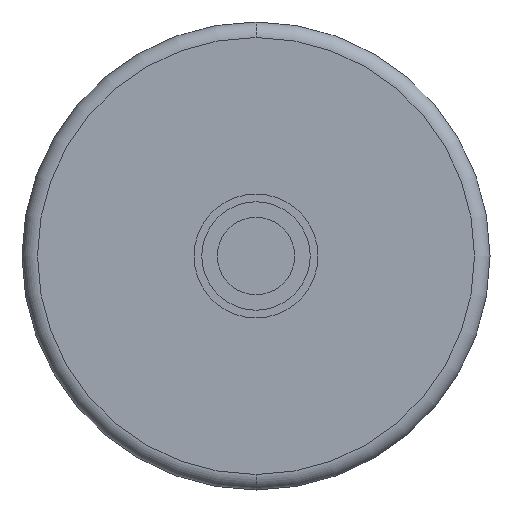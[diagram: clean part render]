
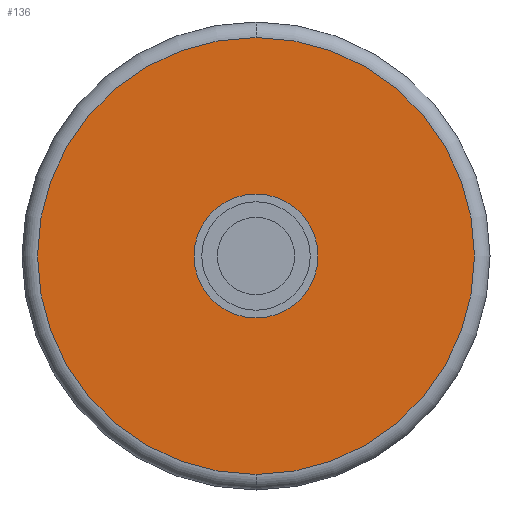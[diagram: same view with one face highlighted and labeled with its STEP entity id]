
A CAD part, front view. The second image highlights one B-rep face of the part: STEP entity #136.
In plain terms, the highlighted planar face has unit normal (0, -1, 0).
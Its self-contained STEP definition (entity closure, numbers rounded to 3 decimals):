
#25 = EDGE_CURVE ( 'NONE', #374, #399, #2724, .T. ) ;
#94 = EDGE_CURVE ( 'NONE', #457, #489, #2686, .T. ) ;
#136 = ADVANCED_FACE ( 'NONE', ( #1587, #1590 ), #905, .T. ) ;
#156 = EDGE_CURVE ( 'NONE', #489, #457, #1908, .T. ) ;
#219 = EDGE_CURVE ( 'NONE', #399, #374, #1361, .T. ) ;
#360 = ORIENTED_EDGE ( 'NONE', *, *, #94, .T. ) ;
#374 = VERTEX_POINT ( 'NONE', #2320 ) ;
#399 = VERTEX_POINT ( 'NONE', #2345 ) ;
#457 = VERTEX_POINT ( 'NONE', #2394 ) ;
#489 = VERTEX_POINT ( 'NONE', #2426 ) ;
#550 = CARTESIAN_POINT ( 'NONE',  ( 0., 0., 0. ) ) ;
#554 = DIRECTION ( 'NONE',  ( 0., -1., 0. ) ) ;
#555 = DIRECTION ( 'NONE',  ( 0., 0., -1. ) ) ;
#768 = CARTESIAN_POINT ( 'NONE',  ( 0., 0., 0. ) ) ;
#769 = DIRECTION ( 'NONE',  ( 0., -1., 0. ) ) ;
#770 = DIRECTION ( 'NONE',  ( 0., 0., -1. ) ) ;
#905 = PLANE ( 'NONE',  #1593 ) ;
#906 = CARTESIAN_POINT ( 'NONE',  ( 4., 0., 0. ) ) ;
#907 = DIRECTION ( 'NONE',  ( 0., -1., 0. ) ) ;
#908 = DIRECTION ( 'NONE',  ( 0., 0., -1. ) ) ;
#1023 = CARTESIAN_POINT ( 'NONE',  ( 0., 0., 0. ) ) ;
#1024 = DIRECTION ( 'NONE',  ( 0., -1., 0. ) ) ;
#1025 = DIRECTION ( 'NONE',  ( 0., 0., -1. ) ) ;
#1248 = CARTESIAN_POINT ( 'NONE',  ( 0., 0., 0. ) ) ;
#1249 = DIRECTION ( 'NONE',  ( 0., -1., 0. ) ) ;
#1250 = DIRECTION ( 'NONE',  ( 0., 0., -1. ) ) ;
#1361 = CIRCLE ( 'NONE', #1742, 4. ) ;
#1428 = AXIS2_PLACEMENT_3D ( 'NONE', #550, #554, #555 ) ;
#1535 = AXIS2_PLACEMENT_3D ( 'NONE', #768, #769, #770 ) ;
#1587 = FACE_OUTER_BOUND ( 'NONE', #1955, .T. ) ;
#1590 = FACE_BOUND ( 'NONE', #1954, .T. ) ;
#1593 = AXIS2_PLACEMENT_3D ( 'NONE', #906, #907, #908 ) ;
#1653 = AXIS2_PLACEMENT_3D ( 'NONE', #1023, #1024, #1025 ) ;
#1742 = AXIS2_PLACEMENT_3D ( 'NONE', #1248, #1249, #1250 ) ;
#1908 = CIRCLE ( 'NONE', #1653, 14.1 ) ;
#1954 = EDGE_LOOP ( 'NONE', ( #2104, #2103 ) ) ;
#1955 = EDGE_LOOP ( 'NONE', ( #360, #2102 ) ) ;
#2102 = ORIENTED_EDGE ( 'NONE', *, *, #156, .T. ) ;
#2103 = ORIENTED_EDGE ( 'NONE', *, *, #219, .F. ) ;
#2104 = ORIENTED_EDGE ( 'NONE', *, *, #25, .F. ) ;
#2320 = CARTESIAN_POINT ( 'NONE',  ( 0., 0., -4. ) ) ;
#2345 = CARTESIAN_POINT ( 'NONE',  ( 0., 0., 4. ) ) ;
#2394 = CARTESIAN_POINT ( 'NONE',  ( 0., 0., -14.1 ) ) ;
#2426 = CARTESIAN_POINT ( 'NONE',  ( 0., 0., 14.1 ) ) ;
#2686 = CIRCLE ( 'NONE', #1535, 14.1 ) ;
#2724 = CIRCLE ( 'NONE', #1428, 4. ) ;
